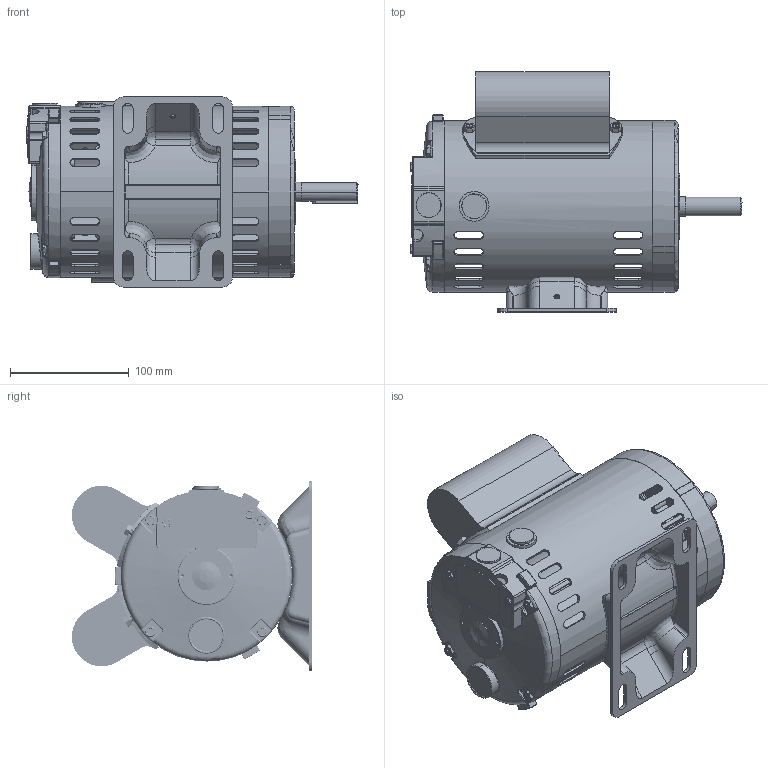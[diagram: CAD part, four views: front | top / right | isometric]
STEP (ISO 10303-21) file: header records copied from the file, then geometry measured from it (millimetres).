
FILE_DESCRIPTION (( 'STEP AP203' ), '1' );
FILE_NAME ('OPE 34-36-56（175）.STEP', '2025-03-04T04:29:43', ( 'User' ), ( 'China' ), 'SwSTEP 2.0', 'SolidWorks 2019', '' );
FILE_SCHEMA (( 'CONFIG_CONTROL_DESIGN' ));
Length unit declared in the file: millimetre
Products named in the file (3): zt2; djjjjj; OPE 34-36-56（175）
Assembly tree (2 placements, depth 2):
  OPE 34-36-56（175）
    zt2
    djjjjj
Bounding box: 279.35 x 202.21 x 160 mm (x, y, z)
Volume: 642046.4 mm3; surface area: 491379.6 mm2
Topology: 27 solids, 29 shells, 2472 faces, 6386 edges, 3976 vertices
Faces by surface type: cylinder 1171, plane 572, bspline 323, torus 288, cone 87, sphere 31
Entity records: 115607 total; most frequent: CARTESIAN_POINT 59231, ORIENTED_EDGE 12612, DIRECTION 10505, EDGE_CURVE 6306, AXIS2_PLACEMENT_3D 4065, VERTEX_POINT 3972, EDGE_LOOP 2648, FACE_OUTER_BOUND 2472
